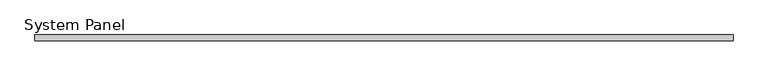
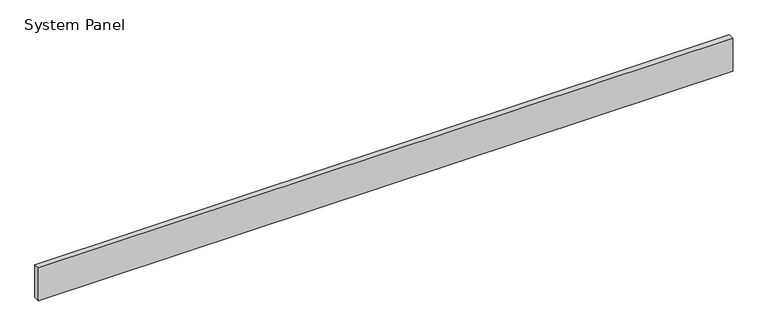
"""IFC4 building model written with IfcOpenShell, lengths in millimetres: plate geometry, System Panel : Inspire 50mm Horizontal - Plain RHEA-PIR."""

from ifc_helpers import new_model, si_unit, origin, origin_with_axes, place, context, project, spatial, polyline, outline, extrude, source, transform, mapped, element, save


def system_panel_100212cb(model_context):
    return source(origin(), model_context, "Body", "SweptSolid", [
        extrude(outline(polyline([(2995.0, 0.0), (-2995.0, 0.0), (-2995.0, 50.0), (2995.0, 50.0), (2995.0, 0.0)])), origin_with_axes(), (0.0, 0.0, 1.0), 300.0),
    ])


if __name__ == "__main__":
    model = new_model("IFC4")
    model_context = context("Model", 3, world=origin())
    ifc_project = project(units=[si_unit("LENGTHUNIT", "METRE", prefix="MILLI")], contexts=[model_context])
    site = spatial("IfcSite", under=ifc_project)
    building = spatial("IfcBuilding", under=site)
    placement = place(None, origin())
    system_panel_shape = system_panel_100212cb(model_context)
    element("IfcPlate", 1, ObjectType="System Panel : Inspire 50mm Horizontal - Plain RHEA-PIR", at=placement, inside=building, context=model_context, shape_type="MappedRepresentation", body=[
        mapped(system_panel_shape, transform((0.0, 0.0, 0.0), x_axis=(1.0, 0.0, 0.0), y_axis=(0.0, 1.0, 0.0), z_axis=(0.0, 0.0, 1.0))),
    ])
    save(model, "model.ifc")
